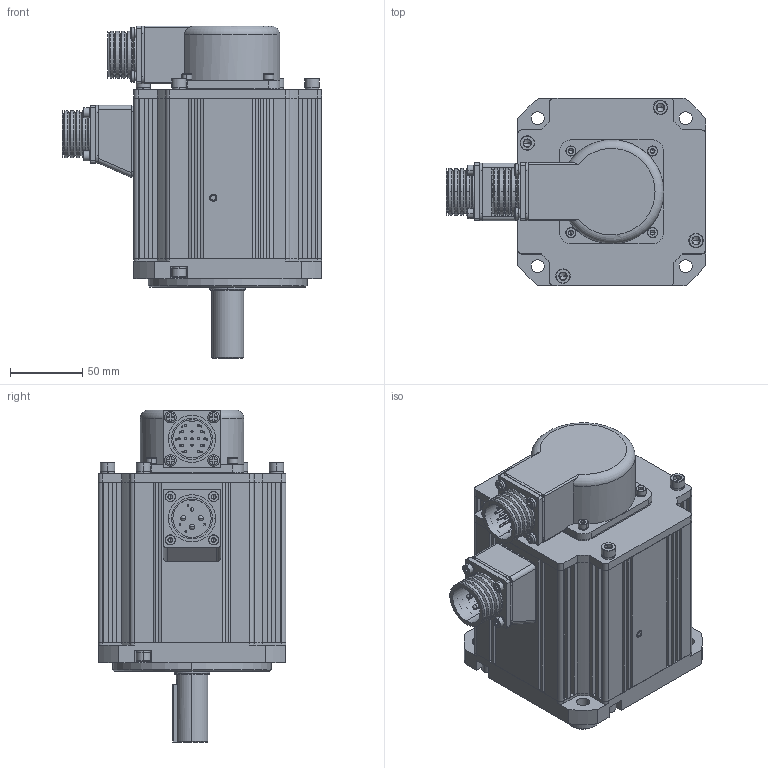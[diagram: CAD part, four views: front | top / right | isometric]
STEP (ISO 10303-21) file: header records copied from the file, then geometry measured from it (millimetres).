
FILE_DESCRIPTION((''),'2;1');
FILE_NAME('SV-MM13-2R0E-X-XA0-1000_ASM_ASM','2019-12-11T',('JWDQ'),(''),'CREO PARAMETRIC BY PTC INC, 2014050','CREO PARAMETRIC BY PTC INC, 2014050','');
FILE_SCHEMA(('CONFIG_CONTROL_DESIGN'));
Products named in the file (30): SV130PT-JK_2_1_2_3; 046770000100_1_1_2_3_4_5_6_7_13; 80750004_1_1_2_3_4_5_6_7_8_9_14; 78400020_1_1_2_3_4_5_6_7_8_9_14; GBT93-4_1_1_2_3_4_5_6_7_8_9__11; GBT7R1-4X35_1_1_2_3_4_5_6_7__12; 513704090100_1_1_2_3_4_5_6_7_14; S-YD28-4_ASM_1_1_2_3_4_5_6_7_12_ASM; SV130PT-DZ_ASM_2_1_2_3_ASM; SV130PT-ZHOU_2_1_2_3_AF0; SV130PT-HG_1_1_2_3_4_5; SV130DGL-HG_ASM_1_1_2_3_4_5_ASM; SV130PT-ZHUANZ_ASM_2_1_2_3_AF0_ASM; 80100007_1_1_2_3_4_5_6_7_8_9_14; 730030000200_1_1_2_3_4_5_6_7_14; SV130-QG_ASM_1_1_2_3_4_5_6_7_12_ASM; GBT1095-6X6-41_2_1_2_3; 82340004_1_1_2_3_4_5_6_7_8_9_14; 046770000100_1; 513715090100_1_1_2_3_4_5_6_7_14; 78400019_1_1_2_3_4_5_6_7_8_9_14; GBT93-4_1; GBT70R1-4X12_1_1_2_3_4_5_6_7_12; M4X16_1_1_2_3_4_5_6_7_8_9_10_14; TS5214_ASM_1_1_2_3_4_5_6_7_8_11_ASM; GBT93-6_1_1_2_3_4_5_6_7_8_9__12; GBT7R1-M6X16_1_1_2_3_4_5_6_7_12; GBT119R1-5X8_1_1_2_3_4_5; SV130PT_ASM_3_1_2_3_AF0_ASM; SV-MM13-2R0E-X-XA0-1000_ASM_ASM
Assembly tree (61 placements, depth 5):
  SV-MM13-2R0E-X-XA0-1000_ASM_ASM
    SV130PT_ASM_3_1_2_3_AF0_ASM
      SV130PT-DZ_ASM_2_1_2_3_ASM
        SV130PT-JK_2_1_2_3
        S-YD28-4_ASM_1_1_2_3_4_5_6_7_12_ASM
          046770000100_1_1_2_3_4_5_6_7_13
          80750004_1_1_2_3_4_5_6_7_8_9_14
          78400020_1_1_2_3_4_5_6_7_8_9_14
          GBT93-4_1_1_2_3_4_5_6_7_8_9__11  x4
          GBT7R1-4X35_1_1_2_3_4_5_6_7__12  x4
          513704090100_1_1_2_3_4_5_6_7_14
      SV130PT-ZHUANZ_ASM_2_1_2_3_AF0_ASM
        SV130PT-ZHOU_2_1_2_3_AF0
        SV130DGL-HG_ASM_1_1_2_3_4_5_ASM
          SV130PT-HG_1_1_2_3_4_5
      SV130-QG_ASM_1_1_2_3_4_5_6_7_12_ASM
        80100007_1_1_2_3_4_5_6_7_8_9_14
        730030000200_1_1_2_3_4_5_6_7_14
      GBT1095-6X6-41_2_1_2_3
      TS5214_ASM_1_1_2_3_4_5_6_7_8_11_ASM
        82340004_1_1_2_3_4_5_6_7_8_9_14
        046770000100_1
        513715090100_1_1_2_3_4_5_6_7_14
        78400019_1_1_2_3_4_5_6_7_8_9_14
        GBT93-4_1  x8
        GBT70R1-4X12_1_1_2_3_4_5_6_7_12  x4
        M4X16_1_1_2_3_4_5_6_7_8_9_10_14  x4
      GBT93-6_1_1_2_3_4_5_6_7_8_9__12  x7
      GBT7R1-M6X16_1_1_2_3_4_5_6_7_12  x8
      GBT119R1-5X8_1_1_2_3_4_5
Bounding box: 179.5 x 130 x 230 mm (x, y, z)
Volume: 875996.3 mm3; surface area: 362168.6 mm2
Topology: 54 solids, 71 shells, 3165 faces, 8261 edges, 5354 vertices
Faces by surface type: plane 1880, cylinder 765, cone 365, torus 102, bspline 27, sphere 26
Entity records: 99521 total; most frequent: CARTESIAN_POINT 16354, DIRECTION 13904, ORIENTED_EDGE 13658, EDGE_CURVE 6837, VECTOR 4716, LINE 4716, AXIS2_PLACEMENT_3D 4594, VERTEX_POINT 4534
